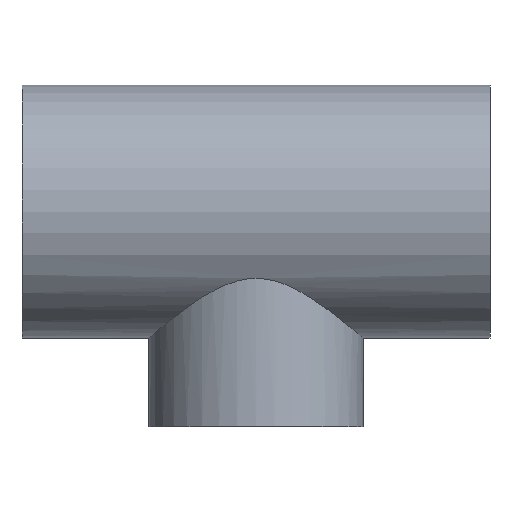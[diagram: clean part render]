
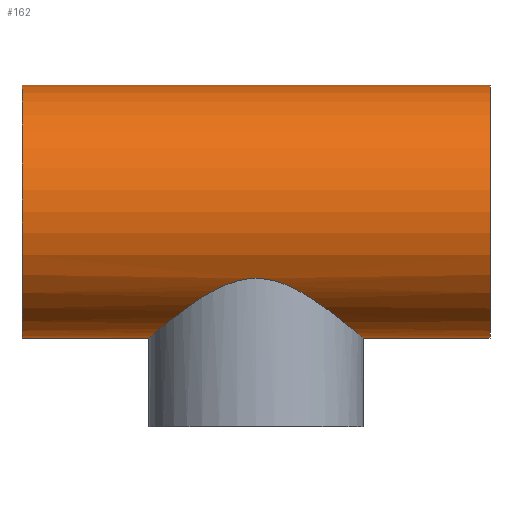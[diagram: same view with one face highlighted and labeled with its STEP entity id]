
A CAD part, top view. The second image highlights one B-rep face of the part: STEP entity #162.
In plain terms, the highlighted cylindrical face has radius 53 mm (diameter 106 mm), a full revolution.
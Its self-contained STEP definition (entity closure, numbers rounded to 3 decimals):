
#16=B_SPLINE_CURVE_WITH_KNOTS('',3,(#344,#345,#346,#347,#348,#349,#350,
#351,#352,#353,#354,#355,#356,#357,#358,#359,#360,#361,#362,#363,#364,#365,
#366,#367,#368,#369,#370,#371,#372,#373,#374,#375,#376,#377,#378,#379,#380,
#381,#382,#383,#384,#385,#386,#387,#388,#389,#390,#391,#392,#393,#394,#395,
#396,#397,#398,#399,#400,#401,#402,#403,#404,#405,#406,#407,#408,#409),
 .UNSPECIFIED.,.T.,.F.,(4,2,2,2,2,2,2,2,2,2,2,2,2,2,2,2,2,2,2,2,2,2,2,2,
2,2,2,2,2,2,2,2,4),(0.,0.945,1.89,2.836,
3.781,4.682,5.584,6.486,7.387,
8.289,9.19,10.092,10.993,11.938,
12.884,13.829,14.774,15.719,16.665,
17.61,18.555,19.457,20.358,21.26,
22.161,23.063,23.964,24.866,25.767,
26.713,27.658,28.603,29.548),
 .UNSPECIFIED.);
#32=FACE_BOUND('',#69,.T.);
#33=FACE_BOUND('',#70,.T.);
#46=FACE_OUTER_BOUND('',#68,.T.);
#68=EDGE_LOOP('',(#136));
#69=EDGE_LOOP('',(#137));
#70=EDGE_LOOP('',(#138));
#88=CIRCLE('',#187,53.);
#89=CIRCLE('',#188,53.);
#101=VERTEX_POINT('',#341);
#102=VERTEX_POINT('',#343);
#103=VERTEX_POINT('',#410);
#115=EDGE_CURVE('',#101,#101,#88,.T.);
#116=EDGE_CURVE('',#102,#102,#16,.T.);
#117=EDGE_CURVE('',#103,#103,#89,.T.);
#136=ORIENTED_EDGE('',*,*,#115,.F.);
#137=ORIENTED_EDGE('',*,*,#116,.T.);
#138=ORIENTED_EDGE('',*,*,#117,.F.);
#152=CYLINDRICAL_SURFACE('',#186,53.);
#162=ADVANCED_FACE('',(#46,#32,#33),#152,.T.);
#186=AXIS2_PLACEMENT_3D('',#340,#230,#231);
#187=AXIS2_PLACEMENT_3D('',#342,#232,#233);
#188=AXIS2_PLACEMENT_3D('',#411,#234,#235);
#230=DIRECTION('center_axis',(1.,0.,0.));
#231=DIRECTION('ref_axis',(0.,-1.,0.));
#232=DIRECTION('center_axis',(-1.,0.,0.));
#233=DIRECTION('ref_axis',(0.,-1.,0.));
#234=DIRECTION('center_axis',(1.,0.,0.));
#235=DIRECTION('ref_axis',(0.,-1.,0.));
#340=CARTESIAN_POINT('Origin',(0.,0.,0.));
#341=CARTESIAN_POINT('',(-98.,53.,0.));
#342=CARTESIAN_POINT('Origin',(-98.,0.,0.));
#343=CARTESIAN_POINT('',(0.,-28.,45.));
#344=CARTESIAN_POINT('Ctrl Pts',(0.,-28.,45.));
#345=CARTESIAN_POINT('Ctrl Pts',(3.151,-28.,45.));
#346=CARTESIAN_POINT('Ctrl Pts',(6.215,-28.544,44.67));
#347=CARTESIAN_POINT('Ctrl Pts',(12.109,-30.377,43.445));
#348=CARTESIAN_POINT('Ctrl Pts',(14.942,-31.655,42.548));
#349=CARTESIAN_POINT('Ctrl Pts',(20.335,-34.53,40.25));
#350=CARTESIAN_POINT('Ctrl Pts',(22.894,-36.125,38.848));
#351=CARTESIAN_POINT('Ctrl Pts',(27.653,-39.314,35.617));
#352=CARTESIAN_POINT('Ctrl Pts',(29.852,-40.908,33.788));
#353=CARTESIAN_POINT('Ctrl Pts',(33.697,-43.794,29.943));
#354=CARTESIAN_POINT('Ctrl Pts',(35.5,-45.203,27.802));
#355=CARTESIAN_POINT('Ctrl Pts',(38.745,-47.794,23.066));
#356=CARTESIAN_POINT('Ctrl Pts',(40.187,-48.975,20.47));
#357=CARTESIAN_POINT('Ctrl Pts',(42.547,-50.929,14.959));
#358=CARTESIAN_POINT('Ctrl Pts',(43.467,-51.704,12.038));
#359=CARTESIAN_POINT('Ctrl Pts',(44.694,-52.74,6.061));
#360=CARTESIAN_POINT('Ctrl Pts',(45.,-53.,3.005));
#361=CARTESIAN_POINT('Ctrl Pts',(45.,-53.,-3.005));
#362=CARTESIAN_POINT('Ctrl Pts',(44.694,-52.74,-6.061));
#363=CARTESIAN_POINT('Ctrl Pts',(43.467,-51.704,-12.038));
#364=CARTESIAN_POINT('Ctrl Pts',(42.547,-50.929,-14.959));
#365=CARTESIAN_POINT('Ctrl Pts',(40.187,-48.975,-20.47));
#366=CARTESIAN_POINT('Ctrl Pts',(38.745,-47.794,-23.066));
#367=CARTESIAN_POINT('Ctrl Pts',(35.5,-45.203,-27.802));
#368=CARTESIAN_POINT('Ctrl Pts',(33.697,-43.794,-29.943));
#369=CARTESIAN_POINT('Ctrl Pts',(29.852,-40.908,-33.788));
#370=CARTESIAN_POINT('Ctrl Pts',(27.653,-39.314,-35.617));
#371=CARTESIAN_POINT('Ctrl Pts',(22.894,-36.125,-38.848));
#372=CARTESIAN_POINT('Ctrl Pts',(20.335,-34.53,-40.25));
#373=CARTESIAN_POINT('Ctrl Pts',(14.942,-31.655,-42.548));
#374=CARTESIAN_POINT('Ctrl Pts',(12.109,-30.377,-43.445));
#375=CARTESIAN_POINT('Ctrl Pts',(6.215,-28.544,-44.67));
#376=CARTESIAN_POINT('Ctrl Pts',(3.151,-28.,-45.));
#377=CARTESIAN_POINT('Ctrl Pts',(-3.151,-28.,-45.));
#378=CARTESIAN_POINT('Ctrl Pts',(-6.215,-28.544,-44.67));
#379=CARTESIAN_POINT('Ctrl Pts',(-12.109,-30.377,-43.445));
#380=CARTESIAN_POINT('Ctrl Pts',(-14.942,-31.655,-42.548));
#381=CARTESIAN_POINT('Ctrl Pts',(-20.335,-34.53,-40.25));
#382=CARTESIAN_POINT('Ctrl Pts',(-22.894,-36.125,-38.848));
#383=CARTESIAN_POINT('Ctrl Pts',(-27.653,-39.314,-35.617));
#384=CARTESIAN_POINT('Ctrl Pts',(-29.852,-40.908,-33.788));
#385=CARTESIAN_POINT('Ctrl Pts',(-33.697,-43.794,-29.943));
#386=CARTESIAN_POINT('Ctrl Pts',(-35.5,-45.203,-27.802));
#387=CARTESIAN_POINT('Ctrl Pts',(-38.745,-47.794,-23.066));
#388=CARTESIAN_POINT('Ctrl Pts',(-40.187,-48.975,-20.47));
#389=CARTESIAN_POINT('Ctrl Pts',(-42.547,-50.929,-14.959));
#390=CARTESIAN_POINT('Ctrl Pts',(-43.467,-51.704,-12.038));
#391=CARTESIAN_POINT('Ctrl Pts',(-44.694,-52.74,-6.061));
#392=CARTESIAN_POINT('Ctrl Pts',(-45.,-53.,-3.005));
#393=CARTESIAN_POINT('Ctrl Pts',(-45.,-53.,3.005));
#394=CARTESIAN_POINT('Ctrl Pts',(-44.694,-52.74,6.061));
#395=CARTESIAN_POINT('Ctrl Pts',(-43.467,-51.704,12.038));
#396=CARTESIAN_POINT('Ctrl Pts',(-42.547,-50.929,14.959));
#397=CARTESIAN_POINT('Ctrl Pts',(-40.187,-48.975,20.47));
#398=CARTESIAN_POINT('Ctrl Pts',(-38.745,-47.794,23.066));
#399=CARTESIAN_POINT('Ctrl Pts',(-35.5,-45.203,27.802));
#400=CARTESIAN_POINT('Ctrl Pts',(-33.697,-43.794,29.943));
#401=CARTESIAN_POINT('Ctrl Pts',(-29.852,-40.908,33.788));
#402=CARTESIAN_POINT('Ctrl Pts',(-27.653,-39.314,35.617));
#403=CARTESIAN_POINT('Ctrl Pts',(-22.894,-36.125,38.848));
#404=CARTESIAN_POINT('Ctrl Pts',(-20.335,-34.53,40.25));
#405=CARTESIAN_POINT('Ctrl Pts',(-14.942,-31.655,42.548));
#406=CARTESIAN_POINT('Ctrl Pts',(-12.109,-30.377,43.445));
#407=CARTESIAN_POINT('Ctrl Pts',(-6.215,-28.544,44.67));
#408=CARTESIAN_POINT('Ctrl Pts',(-3.151,-28.,45.));
#409=CARTESIAN_POINT('Ctrl Pts',(0.,-28.,45.));
#410=CARTESIAN_POINT('',(98.,53.,0.));
#411=CARTESIAN_POINT('Origin',(98.,0.,0.));
